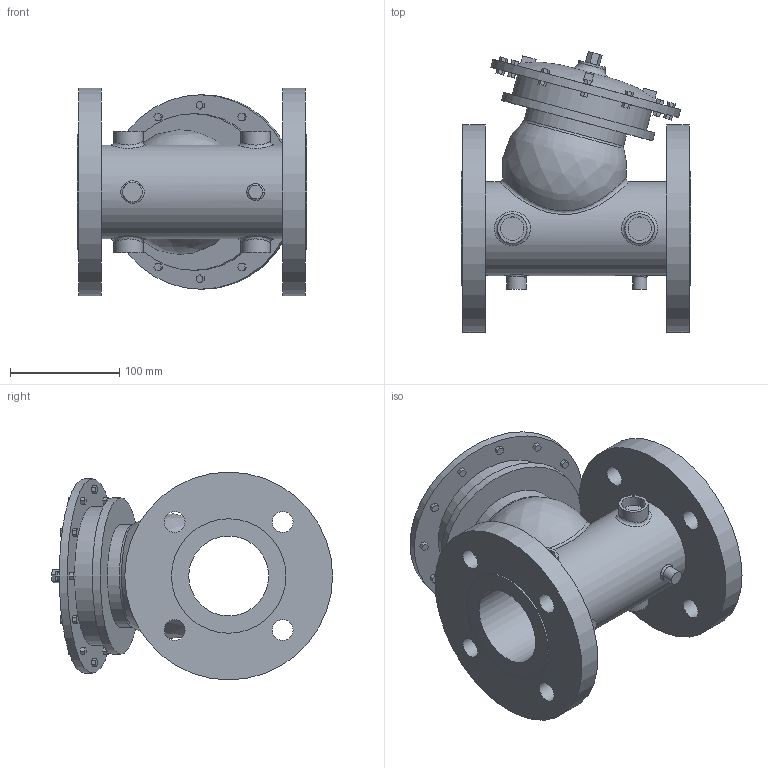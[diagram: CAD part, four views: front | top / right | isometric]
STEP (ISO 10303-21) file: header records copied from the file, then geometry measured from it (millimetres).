
FILE_DESCRIPTION(/* description */ ('VIC FP VALVE PRESSURE RELIEF SERIES 867-7UF (FLG 150)','CAx-IF Rec.Pracs.---Representation and Presentation of Product Manufacturing Information (PMI)---4.0---2014-10-13'),/* implementation_level */ '2;1');
FILE_NAME(/* name */ 'C:\Series 867-7UF\New folder (2)\step\Victaulic_FP-Bermad_Valve Pressure Relief_Series 867-7UF (FLG 150)\Victaulic_FP-Bermad_Valve Pressure Relief_Series 867-7UF (FLG 150)_2.5 (65).stp',/* time_stamp */ '2021-09-02T12:09:03+06:00',/* author */ ('kkamble'),/* organization */ ('Victaulic'),/* preprocessor_version */ 'ST-DEVELOPER v17.2',/* originating_system */ 'Autodesk Inventor 2019',/* authorisation */ '');
FILE_SCHEMA (('AP242_MANAGED_MODEL_BASED_3D_ENGINEERING_MIM_LF { 1 0 10303 442 1 1 4 }'));
Length unit declared in the file: inch
Products named in the file (1): 867-7UF-02.5
Bounding box: 210.06 x 257.06 x 189.99 mm (x, y, z)
Volume: 2506251.4 mm3; surface area: 311257.1 mm2
Topology: 1 solids, 1 shells, 257 faces, 653 edges, 443 vertices
Faces by surface type: plane 216, cylinder 30, bspline 9, torus 2
Full cylindrical faces by diameter (mm): 12.7 x1, 17.78 x1, 19.05 x8, 21.336 x4, 25.4 x1, 26.873 x4, 73.025 x1, 85.725 x1, 93.98 x1, 104.648 x2, 127 x1, 143.256 x1, 177.8 x1, 189.992 x2
Entity records: 9253 total; most frequent: CARTESIAN_POINT 2568, ORIENTED_EDGE 1318, DIRECTION 1230, EDGE_CURVE 659, LINE 520, VECTOR 520, VERTEX_POINT 449, AXIS2_PLACEMENT_3D 355
